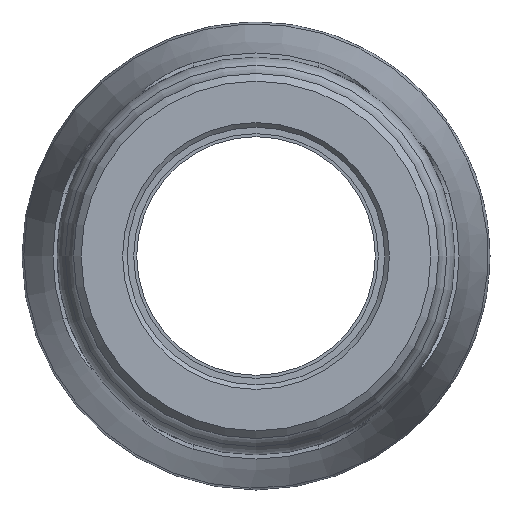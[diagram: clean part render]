
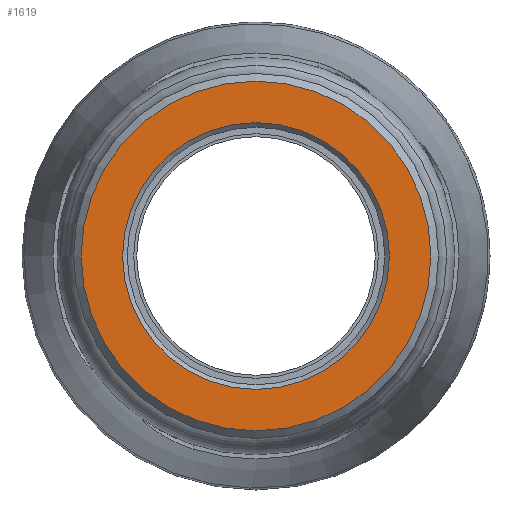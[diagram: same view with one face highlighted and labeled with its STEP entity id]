
A CAD part, left-side view. The second image highlights one B-rep face of the part: STEP entity #1619.
In plain terms, the highlighted planar face has unit normal (-1, 0, 0).
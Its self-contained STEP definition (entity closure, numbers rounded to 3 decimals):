
#29=FACE_BOUND('',#401,.T.);
#212=PLANE('',#1776);
#290=FACE_OUTER_BOUND('',#400,.T.);
#400=EDGE_LOOP('',(#1219));
#401=EDGE_LOOP('',(#1220));
#542=CIRCLE('',#1775,29.358);
#543=CIRCLE('',#1777,38.47);
#728=VERTEX_POINT('',#2926);
#729=VERTEX_POINT('',#2929);
#910=EDGE_CURVE('',#728,#728,#542,.T.);
#911=EDGE_CURVE('',#729,#729,#543,.T.);
#1219=ORIENTED_EDGE('',*,*,#911,.F.);
#1220=ORIENTED_EDGE('',*,*,#910,.F.);
#1619=ADVANCED_FACE('',(#290,#29),#212,.T.);
#1775=AXIS2_PLACEMENT_3D('',#2927,#2067,#2068);
#1776=AXIS2_PLACEMENT_3D('',#2928,#2069,#2070);
#1777=AXIS2_PLACEMENT_3D('',#2930,#2071,#2072);
#2067=DIRECTION('center_axis',(-1.,0.,0.));
#2068=DIRECTION('ref_axis',(0.,-1.,0.));
#2069=DIRECTION('center_axis',(-1.,0.,0.));
#2070=DIRECTION('ref_axis',(0.,0.,1.));
#2071=DIRECTION('center_axis',(1.,0.,0.));
#2072=DIRECTION('ref_axis',(0.,-1.,0.));
#2926=CARTESIAN_POINT('',(0.,29.358,0.));
#2927=CARTESIAN_POINT('Origin',(0.,0.,0.));
#2928=CARTESIAN_POINT('Origin',(0.,40.17,0.));
#2929=CARTESIAN_POINT('',(0.,38.47,0.));
#2930=CARTESIAN_POINT('Origin',(0.,0.,0.));
